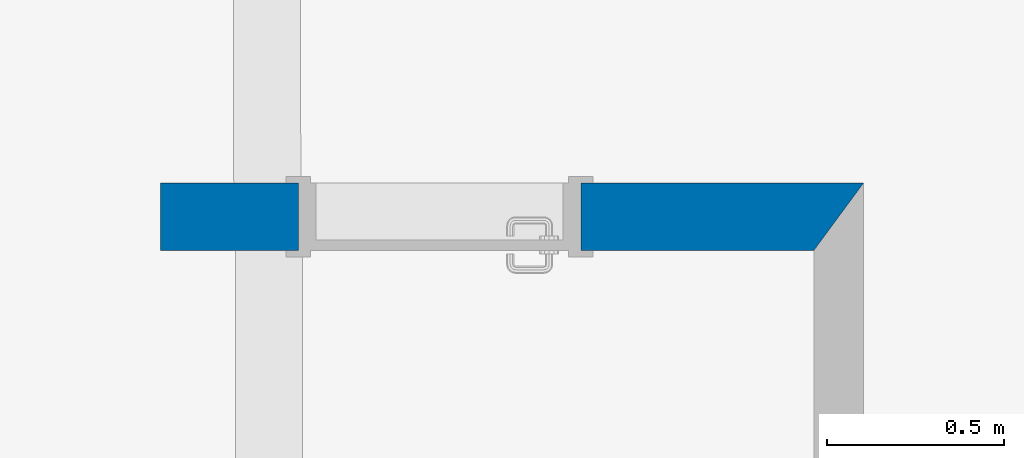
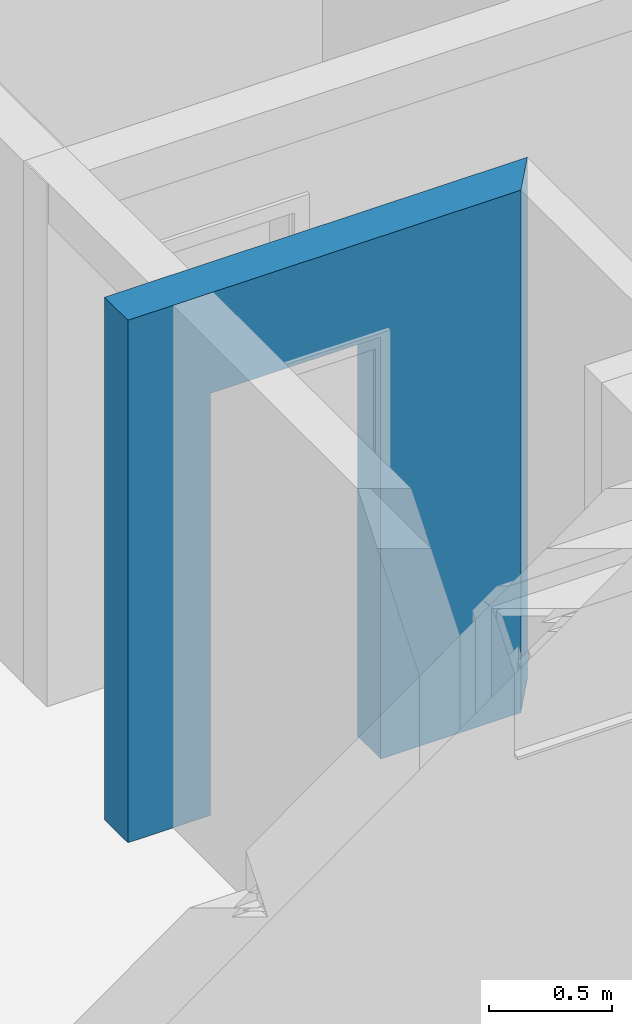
# One storey, part 31 of 43: 1 wall, 1 opening.
"""IFC2X3 building model written with IfcOpenShell, lengths in millimetres."""

from ifc_helpers import new_model, entity, si_unit, converted_unit, derived_unit, money_unit, direction, frame, origin_with_axes, origin_2d_with_axis, place, context, subcontext, project, spatial, polyline, rectangle, outline, extrude, material, layer, layer_set, layer_usage, type_object, element, save


model = new_model("IFC2X3")

# Units and contexts
model_context = context("Model", 3, precision=0.01, world=origin_with_axes(), true_north=direction((0.0, 1.0)))
body_context = subcontext(model_context, "Body", "Model", "MODEL_VIEW")
ifc_project = project(units=[si_unit("LENGTHUNIT", "METRE", prefix="MILLI"), si_unit("AREAUNIT", "SQUARE_METRE"), si_unit("VOLUMEUNIT", "CUBIC_METRE"), converted_unit("PLANEANGLEUNIT", "DEGREE", entity("IfcPlaneAngleMeasure", 0.0174532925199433), si_unit("PLANEANGLEUNIT", "RADIAN"), dimensions=[0, 0, 0, 0, 0, 0, 0]), money_unit("USD"), converted_unit("TIMEUNIT", "Year", entity("IfcTimeMeasure", 31557600.0), si_unit("TIMEUNIT", "SECOND"), dimensions=[0, 0, 1, 0, 0, 0, 0]), si_unit("MASSUNIT", "GRAM", prefix="KILO"), si_unit("THERMODYNAMICTEMPERATUREUNIT", "DEGREE_CELSIUS"), si_unit("LUMINOUSINTENSITYUNIT", "LUMEN"), si_unit("ENERGYUNIT", "JOULE", prefix="MEGA"), derived_unit("THERMALCONDUCTANCEUNIT", [(si_unit("POWERUNIT", "WATT"), 1), (si_unit("LENGTHUNIT", "METRE"), -1), (si_unit("THERMODYNAMICTEMPERATUREUNIT", "KELVIN"), -1)]), derived_unit("SPECIFICHEATCAPACITYUNIT", [(si_unit("ENERGYUNIT", "JOULE"), 1), (si_unit("MASSUNIT", "GRAM", prefix="KILO"), -1), (si_unit("THERMODYNAMICTEMPERATUREUNIT", "KELVIN"), -1)]), derived_unit("MASSDENSITYUNIT", [(si_unit("MASSUNIT", "GRAM", prefix="KILO"), 1), (si_unit("VOLUMEUNIT", "CUBIC_METRE"), -1)])], contexts=[model_context])

# Site, building, storey
site_placement = place(None, origin_with_axes())
site = spatial("IfcSite", under=ifc_project, at=site_placement, Name="Local", CompositionType="ELEMENT")
building_placement = place(site_placement, origin_with_axes())
building = spatial("IfcBuilding", under=site, at=building_placement, Name="Construção", CompositionType="ELEMENT")
storey_placement = place(building_placement, origin_with_axes())
storey = spatial("IfcBuildingStorey", under=building, at=storey_placement, Name="Pavimento Tipo", CompositionType="ELEMENT", Elevation=0.0)

# Wall, opening
ifc_material = material(Name="Concreto - Estrutural")
ifc_layer = layer(ifc_material, 190.0, ventilated="UNKNOWN")
ifc_layer_set = layer_set([ifc_layer], Name="Concreto - Estrutural 190")
ifc_layer_usage = layer_usage(ifc_layer_set, "AXIS2", "POSITIVE", -190.0)
wall_type = type_object("IfcWallType", Name="Concreto - Estrutural 190", PredefinedType="NOTDEFINED")
wall_placement = place(storey_placement, frame((59307.434598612, 7842.461520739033, 0.0), z_axis=(0.0, 0.0, 1.0), x_axis=(-1.0, 0.0, 0.0)))
wall = element("IfcWallStandardCase", 1, at=wall_placement, inside=storey, type_object=wall_type, material=ifc_layer_usage, Name="Apartamento 2 - Parede-008", context=body_context, shape_type="SweptSolid", body=[
    extrude(outline(polyline([(0.0, -190.0000000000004), (1990.000000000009, -190.0000000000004), (1990.000000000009, 0.0), (140.0000000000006, 0.0), (0.0, -190.0000000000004)])), origin_with_axes(), (0.0, 0.0, 1.0), 2600.0),
])
opening_placement = place(wall_placement, frame((1200.00000000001, 0.0, 0.0), z_axis=(0.0, 0.0, 1.0), x_axis=(1.0, 0.0, 0.0)))
element("IfcOpeningElement", 2, at=opening_placement, cuts=wall, Name="Apartamento 2 - P02", context=body_context, shape_type="SweptSolid", body=[
    extrude(rectangle(XDim=799.9999999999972, YDim=2100.0, at=origin_2d_with_axis()), frame((0.0, 190.0000000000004, 1050.0), z_axis=(0.0, -1.0, 0.0), x_axis=(1.0, 0.0, 0.0)), (0.0, 0.0, 1.0), 570.0000000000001),
    extrude(rectangle(XDim=870.0000000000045, YDim=2135.0, at=origin_2d_with_axis()), frame((0.0, 0.0, 1067.5), z_axis=(0.0, -1.0, 0.0), x_axis=(1.0, 0.0, 0.0)), (0.0, 0.0, -1.0), 190.0),
    extrude(rectangle(XDim=870.0000000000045, YDim=2135.0, at=origin_2d_with_axis()), frame((0.0, -190.0000000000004, 1067.5), z_axis=(0.0, 1.0, 0.0), x_axis=(1.0, 0.0, 0.0)), (0.0, 0.0, -1.0), 190.0),
])

save(model, "model.ifc")
